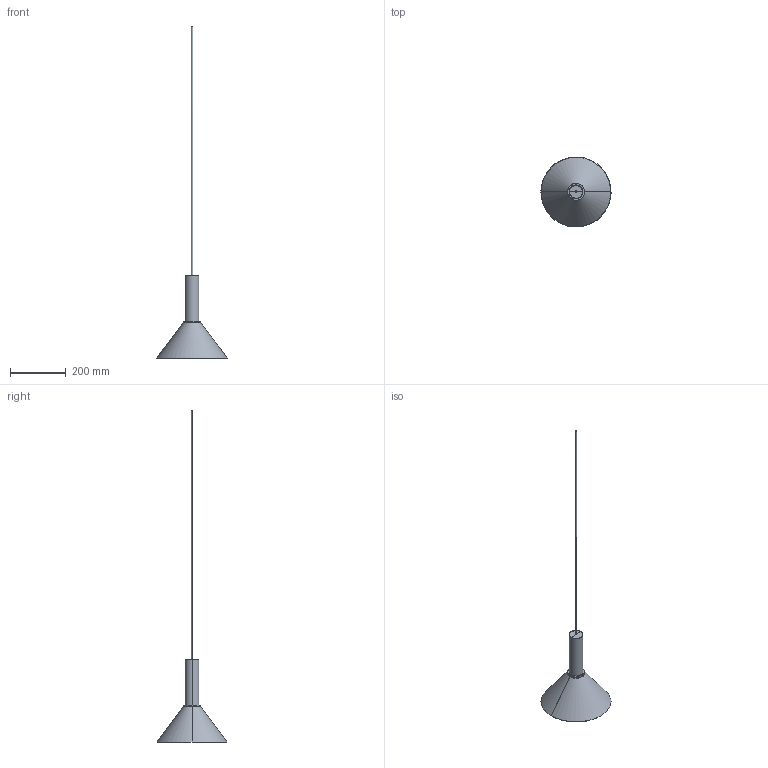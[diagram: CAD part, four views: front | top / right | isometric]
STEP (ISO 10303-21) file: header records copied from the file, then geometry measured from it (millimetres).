
FILE_DESCRIPTION(/* description */ (''),/* implementation_level */ '2;1');
FILE_NAME(/* name */ 'CVX1OV~E',/* time_stamp */ '2018-04-03T17:12:12+02:00',/* author */ (''),/* organization */ (''),/* preprocessor_version */ 'ST-DEVELOPER v15',/* originating_system */ '',/* authorisation */ '');
FILE_SCHEMA (('AUTOMOTIVE_DESIGN'));
Length unit declared in the file: millimetre
Products named in the file (1): Document
Bounding box: 252.21 x 251.67 x 1194.17 mm (x, y, z)
Volume: 166861.2 mm3; surface area: 238726.5 mm2
Topology: 4 solids, 4 shells, 38 faces, 75 edges, 41 vertices
Faces by surface type: bspline 38
Entity records: 1974 total; most frequent: CARTESIAN_POINT 1016, B_SPLINE_CURVE_WITH_KNOTS 163, ORIENTED_EDGE 148, PCURVE 148, DEFINITIONAL_REPRESENTATION 148, SURFACE_CURVE 74, EDGE_CURVE 74, EDGE_LOOP 40
